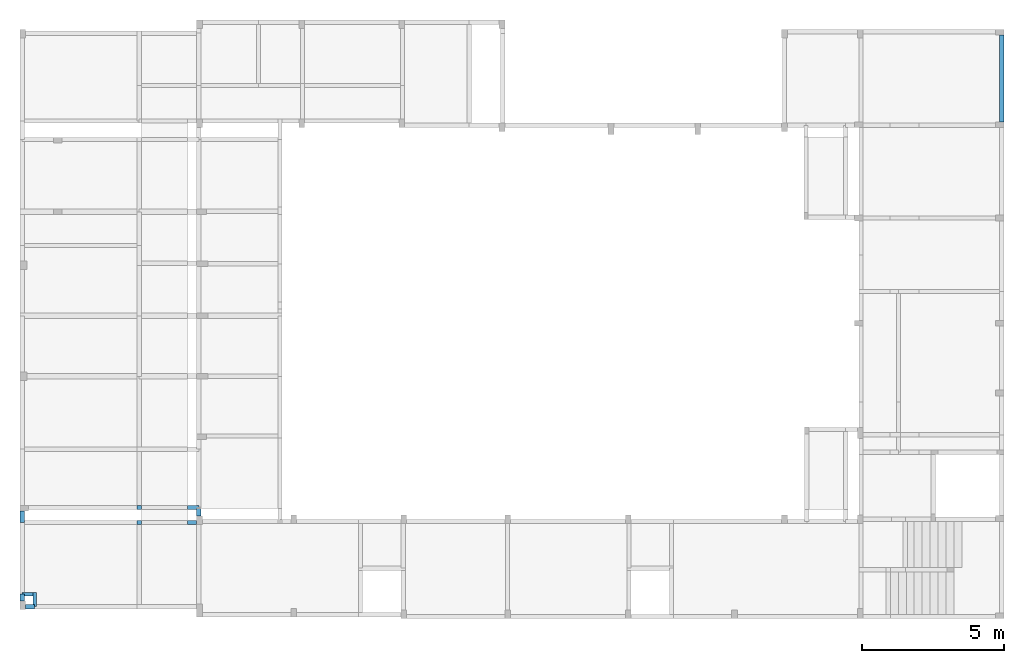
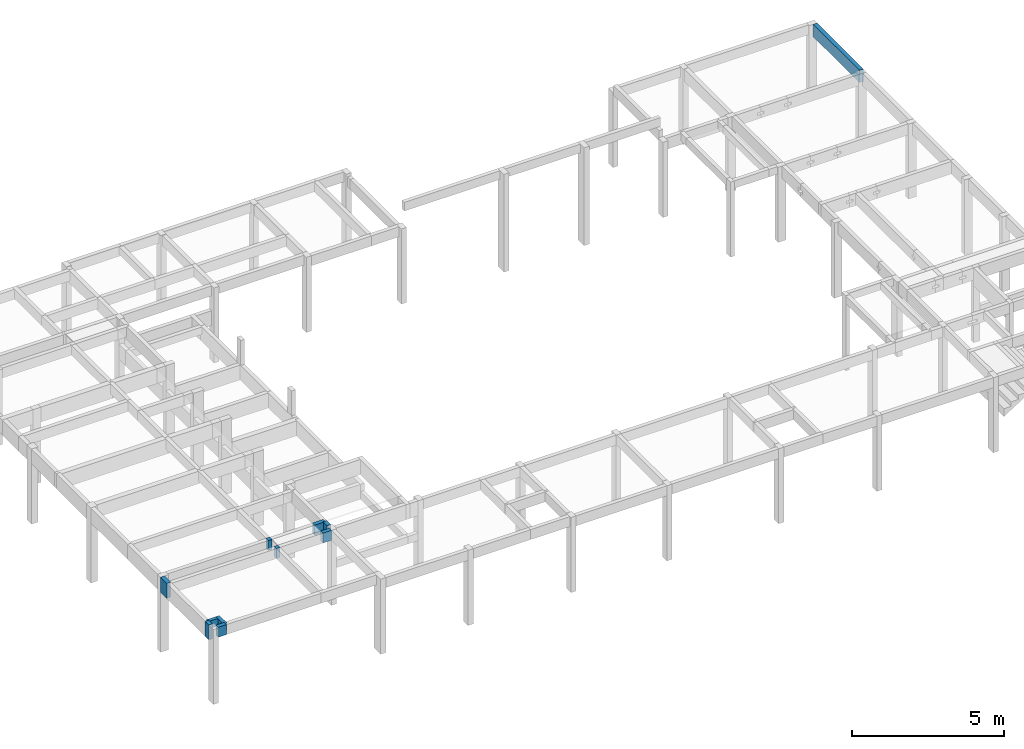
# One storey, part 4 of 21: 11 beams.
"""IFC4 building model written with IfcOpenShell, lengths in centimetres."""

from ifc_helpers import new_model, si_unit, derived_unit, frame, origin_with_axes, origin_2d_with_axis, place, context, project, spatial, rectangle, extrude, material, element, save


model = new_model("IFC4")

# Units and contexts
model_context = context("Model", 3, precision=1e-05, world=origin_with_axes(), identifier="Body")
ifc_project = project(units=[si_unit("LENGTHUNIT", "METRE", prefix="CENTI"), si_unit("VOLUMEUNIT", "CUBIC_METRE"), si_unit("AREAUNIT", "SQUARE_METRE"), si_unit("POWERUNIT", "WATT"), si_unit("LUMINOUSFLUXUNIT", "LUMEN"), si_unit("ELECTRICCURRENTUNIT", "AMPERE"), si_unit("PRESSUREUNIT", "PASCAL", prefix="KILO"), si_unit("MASSUNIT", "GRAM", prefix="KILO"), si_unit("PLANEANGLEUNIT", "RADIAN"), derived_unit("VOLUMETRICFLOWRATEUNIT", [(si_unit("LENGTHUNIT", "METRE"), 3), (si_unit("TIMEUNIT", "SECOND"), -1)])], contexts=[model_context])

# Site, building, storey
site_placement = place(None, origin_with_axes())
site = spatial("IfcSite", under=ifc_project, at=site_placement)
building_placement = place(site_placement, frame((0.0, 0.0, -295.0)))
building = spatial("IfcBuilding", under=site, at=building_placement)
placement_1 = place(building_placement, origin_with_axes())
placement_2 = place(placement_1, frame((0.0, 0.0, 101.0), z_axis=(0.0, 0.0, 1.0), x_axis=(1.0, 0.0, 0.0)))
placement_3 = place(placement_2, frame((0.0, 0.0, 204.0), z_axis=(0.0, 0.0, 1.0), x_axis=(1.0, 0.0, 0.0)))
placement_4 = place(placement_3, frame((0.0, 0.0, 292.0), z_axis=(0.0, 0.0, 1.0), x_axis=(1.0, 0.0, 0.0)))
storey_placement = place(placement_4, frame((0.0, 0.0, 302.0), z_axis=(0.0, 0.0, 1.0), x_axis=(1.0, 0.0, 0.0)))
storey = spatial("IfcBuildingStorey", under=building, at=storey_placement, Name="PAVTO 02", CompositionType="ELEMENT", Elevation=604.0)

# Beams
ifc_material = material(Name="Concreto")
beam_1_placement = place(storey_placement, frame((971.57, -6787.54, 0.0), z_axis=(0.0, 0.0, 1.0), x_axis=(1.0, 0.0, 0.0)))
element("IfcBeam", 1, at=beam_1_placement, inside=storey, material=ifc_material, Name="V224", context=model_context, shape_type="SolidModel", body=[
    extrude(rectangle(XDim=15.0, YDim=40.0, at=origin_2d_with_axis()), frame((-7.5, 0.0, -20.0), z_axis=(1.0, 0.0, 0.0), x_axis=(0.0, -1.0, 0.0)), (0.0, 0.0, 1.0), 15.0),
])
beam_2_placement = place(storey_placement, frame((1161.15, -6787.54, 0.0), z_axis=(0.0, 0.0, 1.0), x_axis=(1.0, 0.0, 0.0)))
element("IfcBeam", 2, at=beam_2_placement, inside=storey, material=ifc_material, Name="V224", context=model_context, shape_type="SolidModel", body=[
    extrude(rectangle(XDim=15.0, YDim=40.0, at=origin_2d_with_axis()), frame((-20.25, 0.0, -20.0), z_axis=(1.0, 0.0, 0.0), x_axis=(0.0, -1.0, 0.0)), (0.0, 0.0, 1.0), 40.5),
])
beam_3_placement = place(storey_placement, frame((1157.4, -6840.85, 0.0), z_axis=(0.0, 0.0, 1.0), x_axis=(1.0, 0.0, 0.0)))
element("IfcBeam", 3, at=beam_3_placement, inside=storey, material=ifc_material, Name="V225", context=model_context, shape_type="SolidModel", body=[
    extrude(rectangle(XDim=15.0, YDim=40.0, at=origin_2d_with_axis()), frame((-16.5, 0.0, -20.0), z_axis=(1.0, 0.0, 0.0), x_axis=(0.0, -1.0, 0.0)), (0.0, 0.0, 1.0), 33.0),
])
beam_4_placement = place(storey_placement, frame((971.57, -6840.85, 0.0), z_axis=(0.0, 0.0, 1.0), x_axis=(1.0, 0.0, 0.0)))
element("IfcBeam", 4, at=beam_4_placement, inside=storey, material=ifc_material, Name="V225", context=model_context, shape_type="SolidModel", body=[
    extrude(rectangle(XDim=15.0, YDim=40.0, at=origin_2d_with_axis()), frame((-7.5, 0.0, -20.0), z_axis=(1.0, 0.0, 0.0), x_axis=(0.0, -1.0, 0.0)), (0.0, 0.0, 1.0), 15.0),
])
beam_5_placement = place(storey_placement, frame((578.09, -7093.2, 0.0), z_axis=(0.0, 0.0, 1.0), x_axis=(1.0, 0.0, 0.0)))
element("IfcBeam", 5, at=beam_5_placement, inside=storey, material=ifc_material, Name="V232", context=model_context, shape_type="SolidModel", body=[
    extrude(rectangle(XDim=13.0, YDim=30.0, at=origin_2d_with_axis()), frame((-18.86, 0.0, -15.0), z_axis=(1.0, 0.0, 0.0), x_axis=(0.0, -1.0, 0.0)), (0.0, 0.0, 1.0), 37.72),
])
beam_6_placement = place(storey_placement, frame((587.59, -7136.84, 0.0), z_axis=(0.0, 0.0, 1.0), x_axis=(1.0, 0.0, 0.0)))
element("IfcBeam", 6, at=beam_6_placement, inside=storey, material=ifc_material, Name="V233", context=model_context, shape_type="SolidModel", body=[
    extrude(rectangle(XDim=15.0, YDim=40.0, at=origin_2d_with_axis()), frame((-15.86, 0.0, -20.0), z_axis=(1.0, 0.0, 0.0), x_axis=(0.0, -1.0, 0.0)), (0.0, 0.0, 1.0), 31.72),
])
beam_7_placement = place(storey_placement, frame((603.45, -7111.77, 0.0), z_axis=(0.0, 0.0, 1.0), x_axis=(1.0, 0.0, 0.0)))
element("IfcBeam", 7, at=beam_7_placement, inside=storey, material=ifc_material, Name="V236", context=model_context, shape_type="SolidModel", body=[
    extrude(rectangle(XDim=13.0, YDim=30.0, at=origin_2d_with_axis()), frame((0.0, -25.07, -15.0), z_axis=(0.0, 1.0, 0.0), x_axis=(1.0, 0.0, 0.0)), (0.0, 0.0, 1.0), 50.14),
])
beam_8_placement = place(storey_placement, frame((559.23, -7105.2, 0.0), z_axis=(0.0, 0.0, 1.0), x_axis=(1.0, 0.0, 0.0)))
element("IfcBeam", 8, at=beam_8_placement, inside=storey, material=ifc_material, Name="V237", context=model_context, shape_type="SolidModel", body=[
    extrude(rectangle(XDim=15.0, YDim=60.0, at=origin_2d_with_axis()), frame((0.0, -12.0, -30.0), z_axis=(0.0, 1.0, 0.0), x_axis=(1.0, 0.0, 0.0)), (0.0, 0.0, 1.0), 24.0),
])
beam_9_placement = place(storey_placement, frame((559.23, -6820.445, 0.0), z_axis=(0.0, 0.0, 1.0), x_axis=(1.0, 0.0, 0.0)))
element("IfcBeam", 9, at=beam_9_placement, inside=storey, material=ifc_material, Name="V237", context=model_context, shape_type="SolidModel", body=[
    extrude(rectangle(XDim=15.0, YDim=60.0, at=origin_2d_with_axis()), frame((0.0, -20.405, -30.0), z_axis=(0.0, 1.0, 0.0), x_axis=(1.0, 0.0, 0.0)), (0.0, 0.0, 1.0), 40.81),
])
beam_10_placement = place(storey_placement, frame((1181.4, -6804.955, 0.0), z_axis=(0.0, 0.0, 1.0), x_axis=(1.0, 0.0, 0.0)))
element("IfcBeam", 10, at=beam_10_placement, inside=storey, material=ifc_material, Name="V241", context=model_context, shape_type="SolidModel", body=[
    extrude(rectangle(XDim=15.0, YDim=50.0, at=origin_2d_with_axis()), frame((0.0, -13.395, -25.0), z_axis=(0.0, 1.0, 0.0), x_axis=(1.0, 0.0, 0.0)), (0.0, 0.0, 1.0), 26.79),
])
beam_11_placement = place(storey_placement, frame((4009.25, -5277.12, 0.0), z_axis=(0.0, 0.0, 1.0), x_axis=(1.0, 0.0, 0.0)))
element("IfcBeam", 11, at=beam_11_placement, inside=storey, material=ifc_material, Name="V266", context=model_context, shape_type="SolidModel", body=[
    extrude(rectangle(XDim=15.0, YDim=50.0, at=origin_2d_with_axis()), frame((0.0, -152.57, -25.0), z_axis=(0.0, 1.0, 0.0), x_axis=(1.0, 0.0, 0.0)), (0.0, 0.0, 1.0), 305.14),
])

save(model, "model.ifc")
